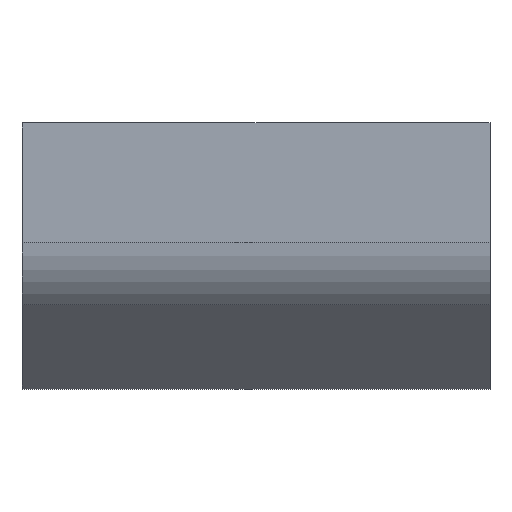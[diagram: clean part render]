
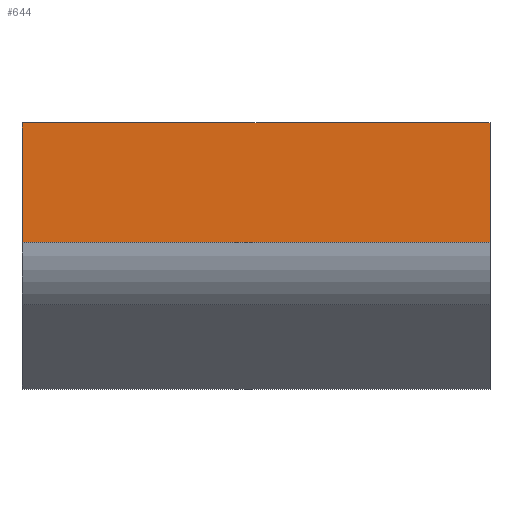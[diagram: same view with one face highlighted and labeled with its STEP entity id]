
A CAD part, front view. The second image highlights one B-rep face of the part: STEP entity #644.
In plain terms, the highlighted planar face has unit normal (0, -1, 0).
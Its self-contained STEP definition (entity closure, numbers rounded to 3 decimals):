
#62 = ORIENTED_EDGE ( 'NONE', *, *, #1024, .T. ) ;
#118 = CARTESIAN_POINT ( 'NONE',  ( 200., -100., -102.132 ) ) ;
#146 = CARTESIAN_POINT ( 'NONE',  ( -200., -100., 0. ) ) ;
#149 = ORIENTED_EDGE ( 'NONE', *, *, #532, .T. ) ;
#188 = CARTESIAN_POINT ( 'NONE',  ( 200., -100., -102.132 ) ) ;
#261 = AXIS2_PLACEMENT_3D ( 'NONE', #118, #382, #1423 ) ;
#315 = LINE ( 'NONE', #1225, #1418 ) ;
#372 = LINE ( 'NONE', #188, #903 ) ;
#382 = DIRECTION ( 'NONE',  ( 0., 1., 0. ) ) ;
#444 = LINE ( 'NONE', #602, #1286 ) ;
#460 = DIRECTION ( 'NONE',  ( 0., 0., -1. ) ) ;
#470 = EDGE_LOOP ( 'NONE', ( #149, #1618, #1625, #62 ) ) ;
#532 = EDGE_CURVE ( 'NONE', #656, #1513, #711, .T. ) ;
#602 = CARTESIAN_POINT ( 'NONE',  ( 200., -100., -102.132 ) ) ;
#617 = VERTEX_POINT ( 'NONE', #1386 ) ;
#644 = ADVANCED_FACE ( 'NONE', ( #1297 ), #1551, .F. ) ;
#646 = CARTESIAN_POINT ( 'NONE',  ( 200., -100., -102.132 ) ) ;
#656 = VERTEX_POINT ( 'NONE', #146 ) ;
#711 = LINE ( 'NONE', #719, #1391 ) ;
#719 = CARTESIAN_POINT ( 'NONE',  ( -200., -100., -102.132 ) ) ;
#794 = EDGE_CURVE ( 'NONE', #617, #842, #444, .T. ) ;
#842 = VERTEX_POINT ( 'NONE', #646 ) ;
#903 = VECTOR ( 'NONE', #909, 1000. ) ;
#909 = DIRECTION ( 'NONE',  ( -1., 0., 0. ) ) ;
#1024 = EDGE_CURVE ( 'NONE', #617, #656, #315, .T. ) ;
#1083 = DIRECTION ( 'NONE',  ( -1., 0., 0. ) ) ;
#1119 = EDGE_CURVE ( 'NONE', #842, #1513, #372, .T. ) ;
#1225 = CARTESIAN_POINT ( 'NONE',  ( 200., -100., 0. ) ) ;
#1286 = VECTOR ( 'NONE', #1616, 1000. ) ;
#1297 = FACE_OUTER_BOUND ( 'NONE', #470, .T. ) ;
#1327 = CARTESIAN_POINT ( 'NONE',  ( -200., -100., -102.132 ) ) ;
#1386 = CARTESIAN_POINT ( 'NONE',  ( 200., -100., 0. ) ) ;
#1391 = VECTOR ( 'NONE', #460, 1000. ) ;
#1418 = VECTOR ( 'NONE', #1083, 1000. ) ;
#1423 = DIRECTION ( 'NONE',  ( 0., 0., 1. ) ) ;
#1513 = VERTEX_POINT ( 'NONE', #1327 ) ;
#1551 = PLANE ( 'NONE',  #261 ) ;
#1616 = DIRECTION ( 'NONE',  ( 0., 0., -1. ) ) ;
#1618 = ORIENTED_EDGE ( 'NONE', *, *, #1119, .F. ) ;
#1625 = ORIENTED_EDGE ( 'NONE', *, *, #794, .F. ) ;
